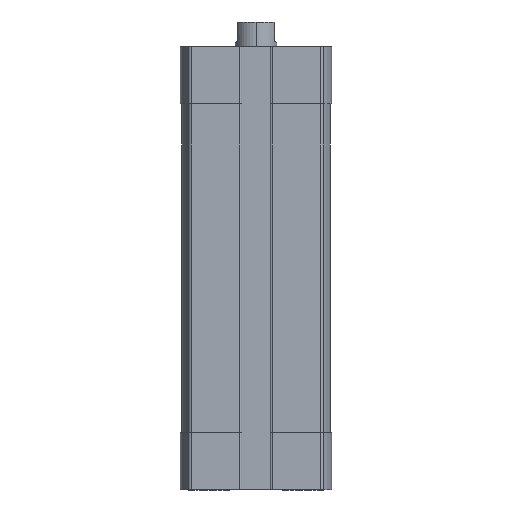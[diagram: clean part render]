
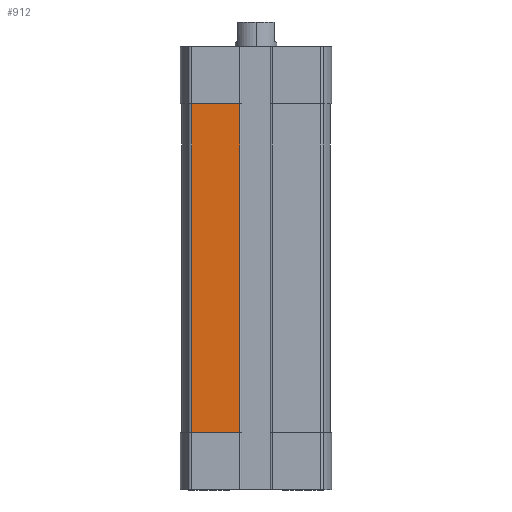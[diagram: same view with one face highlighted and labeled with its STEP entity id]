
A CAD part, left-side view. The second image highlights one B-rep face of the part: STEP entity #912.
In plain terms, the highlighted planar face has unit normal (-1, 0, 0).
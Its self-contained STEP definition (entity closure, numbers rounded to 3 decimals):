
#192 = PLANE ( 'NONE',  #7701 ) ;
#332 = VERTEX_POINT ( 'NONE', #7853 ) ;
#912 = ADVANCED_FACE ( 'NONE', ( #5719 ), #192, .T. ) ;
#984 = CARTESIAN_POINT ( 'NONE',  ( -14.25, 12.347, -74. ) ) ;
#1060 = DIRECTION ( 'NONE',  ( 0., 0., 1. ) ) ;
#1220 = VERTEX_POINT ( 'NONE', #1608 ) ;
#1403 = LINE ( 'NONE', #1494, #5894 ) ;
#1494 = CARTESIAN_POINT ( 'NONE',  ( -14.25, 0., -11. ) ) ;
#1608 = CARTESIAN_POINT ( 'NONE',  ( -14.25, 12.347, -74. ) ) ;
#1929 = DIRECTION ( 'NONE',  ( 0., 0., 1. ) ) ;
#3706 = CARTESIAN_POINT ( 'NONE',  ( -14.25, 12.347, -74. ) ) ;
#3765 = CARTESIAN_POINT ( 'NONE',  ( -14.25, 12.347, -11. ) ) ;
#3987 = VERTEX_POINT ( 'NONE', #3765 ) ;
#4142 = DIRECTION ( 'NONE',  ( 0., -1., 0. ) ) ;
#4780 = EDGE_CURVE ( 'NONE', #7653, #3987, #1403, .T. ) ;
#5719 = FACE_OUTER_BOUND ( 'NONE', #8171, .T. ) ;
#5740 = VECTOR ( 'NONE', #4142, 1000. ) ;
#5894 = VECTOR ( 'NONE', #7779, 1000. ) ;
#6380 = ORIENTED_EDGE ( 'NONE', *, *, #9229, .T. ) ;
#6412 = CARTESIAN_POINT ( 'NONE',  ( -14.25, 3.1, -74. ) ) ;
#6415 = DIRECTION ( 'NONE',  ( -1., 0., 0. ) ) ;
#6763 = EDGE_CURVE ( 'NONE', #3987, #1220, #10991, .T. ) ;
#7240 = DIRECTION ( 'NONE',  ( 0., 0., -1. ) ) ;
#7637 = CARTESIAN_POINT ( 'NONE',  ( -14.25, 3.1, -11. ) ) ;
#7653 = VERTEX_POINT ( 'NONE', #7637 ) ;
#7701 = AXIS2_PLACEMENT_3D ( 'NONE', #3706, #6415, #1060 ) ;
#7761 = VECTOR ( 'NONE', #1929, 1000. ) ;
#7779 = DIRECTION ( 'NONE',  ( 0., 1., 0. ) ) ;
#7853 = CARTESIAN_POINT ( 'NONE',  ( -14.25, 3.1, -74. ) ) ;
#8171 = EDGE_LOOP ( 'NONE', ( #6380, #9378, #9794, #8574 ) ) ;
#8574 = ORIENTED_EDGE ( 'NONE', *, *, #6763, .T. ) ;
#8648 = VECTOR ( 'NONE', #7240, 1000. ) ;
#9229 = EDGE_CURVE ( 'NONE', #1220, #332, #10160, .T. ) ;
#9378 = ORIENTED_EDGE ( 'NONE', *, *, #11043, .T. ) ;
#9794 = ORIENTED_EDGE ( 'NONE', *, *, #4780, .T. ) ;
#10094 = LINE ( 'NONE', #6412, #7761 ) ;
#10160 = LINE ( 'NONE', #11237, #5740 ) ;
#10991 = LINE ( 'NONE', #984, #8648 ) ;
#11043 = EDGE_CURVE ( 'NONE', #332, #7653, #10094, .T. ) ;
#11237 = CARTESIAN_POINT ( 'NONE',  ( -14.25, 12.347, -74. ) ) ;
